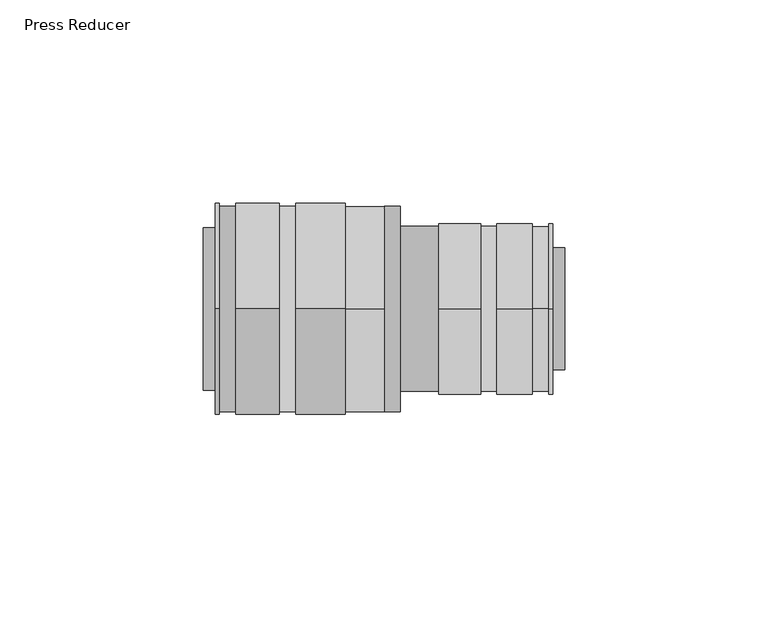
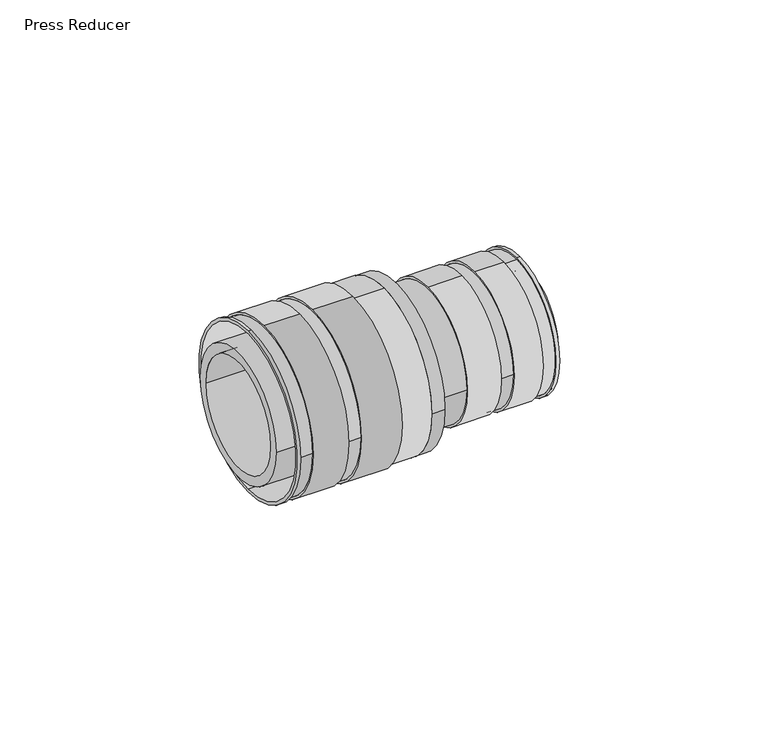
"""IFC4 building model written with IfcOpenShell, lengths in millimetres: pipe fitting geometry, Press Reducer : Superpipe Press Reducer."""

from ifc_helpers import new_model, si_unit, point, frame, frame_2d, origin, place, context, project, spatial, polyline, circle_curve, trimmed, segment, composite_curve, outline, extrude, source, transform, mapped, element, save
from ifc_brep_helpers import plane_surface, cylinder_surface, revolved_surface, advanced_brep


def press_reducer_344c6283(model_context):
    return source(origin(), model_context, "Body", "SolidModel", [
        advanced_brep(
        [(3.0, 0.0, -26.0), (3.0, 0.0, 26.0), (3.0, 0.0, -25.0), (3.0, 0.0, 25.0), (44.5, 0.0, -25.3), (44.5, 0.0, 25.3), (44.5, 0.0, -25.0), (44.5, 0.0, 25.0), (4.0, 0.0, -26.0), (4.0, -26.0, 0.0), (4.0, 0.0, 26.0), (35.0, 0.0, -26.0), (35.0, 0.0, 26.0), (22.75, 0.0, 26.0), (22.75, -26.0, 0.0), (22.75, 0.0, -26.0), (18.75, 0.0, -26.0), (18.75, -26.0, 0.0), (18.75, 0.0, 26.0), (8.0, 0.0, 26.0), (8.0, -26.0, 0.0), (8.0, 0.0, -26.0), (4.0, 26.0, 0.0), (22.75, 26.0, 0.0), (18.75, 26.0, 0.0), (8.0, 26.0, 0.0), (35.0, 0.0, -25.3), (35.0, 0.0, 25.3), (18.75, 25.3, 0.0), (18.75, -25.3, 0.0), (22.75, 25.3, 0.0), (22.75, -25.3, 0.0), (8.0, -25.3, 0.0), (8.0, 25.3, 0.0), (4.0, -25.3, 0.0), (4.0, 25.3, 0.0)],
        [
            (0, 1, circle_curve(frame((3.0, 0.0, 0.0), z_axis=(-1.0, 0.0, 0.0), x_axis=(0.0, 0.0, 1.0)), 26.0)),
            (1, 0, circle_curve(frame((3.0, 0.0, 0.0), z_axis=(-1.0, 0.0, 0.0), x_axis=(0.0, 0.0, 1.0)), 26.0)),
            (2, 3, circle_curve(frame((3.0, 0.0, 0.0), z_axis=(1.0, 0.0, 0.0), x_axis=(0.0, 0.0, 1.0)), 25.0)),
            (3, 2, circle_curve(frame((3.0, 0.0, 0.0), z_axis=(1.0, 0.0, 0.0), x_axis=(0.0, 0.0, 1.0)), 25.0)),
            (4, 5, circle_curve(frame((44.5, 0.0, 0.0), z_axis=(1.0, 0.0, 0.0), x_axis=(0.0, 0.0, 1.0)), 25.3)),
            (5, 4, circle_curve(frame((44.5, 0.0, 0.0), z_axis=(1.0, 0.0, 0.0), x_axis=(0.0, 0.0, 1.0)), 25.3)),
            (6, 7, circle_curve(frame((44.5, 0.0, 0.0), z_axis=(-1.0, 0.0, 0.0), x_axis=(0.0, 0.0, 1.0)), 25.0)),
            (7, 6, circle_curve(frame((44.5, 0.0, 0.0), z_axis=(-1.0, 0.0, 0.0), x_axis=(0.0, 0.0, 1.0)), 25.0)),
            (0, 8),
            (8, 9, circle_curve(frame((4.0, 0.0, 0.0), z_axis=(-1.0, 0.0, 0.0), x_axis=(0.0, 0.0, 1.0)), 26.0)),
            (9, 10, circle_curve(frame((4.0, 0.0, 0.0), z_axis=(-1.0, 0.0, 0.0), x_axis=(0.0, 0.0, 1.0)), 26.0)),
            (10, 1),
            (11, 12, circle_curve(frame((35.0, 0.0, 0.0), z_axis=(-1.0, 0.0, 0.0), x_axis=(0.0, 0.0, 1.0)), 26.0)),
            (12, 13),
            (13, 14, circle_curve(frame((22.75, 0.0, 0.0), z_axis=(1.0, 0.0, 0.0), x_axis=(0.0, 0.0, 1.0)), 26.0)),
            (14, 15, circle_curve(frame((22.75, 0.0, 0.0), z_axis=(1.0, 0.0, 0.0), x_axis=(0.0, 0.0, 1.0)), 26.0)),
            (15, 11),
            (16, 17, circle_curve(frame((18.75, 0.0, 0.0), z_axis=(-1.0, 0.0, 0.0), x_axis=(0.0, 0.0, 1.0)), 26.0)),
            (17, 18, circle_curve(frame((18.75, 0.0, 0.0), z_axis=(-1.0, 0.0, 0.0), x_axis=(0.0, 0.0, 1.0)), 26.0)),
            (18, 19),
            (19, 20, circle_curve(frame((8.0, 0.0, 0.0), z_axis=(1.0, 0.0, 0.0), x_axis=(0.0, 0.0, 1.0)), 26.0)),
            (20, 21, circle_curve(frame((8.0, 0.0, 0.0), z_axis=(1.0, 0.0, 0.0), x_axis=(0.0, 0.0, 1.0)), 26.0)),
            (21, 16),
            (10, 22, circle_curve(frame((4.0, 0.0, 0.0), z_axis=(-1.0, 0.0, 0.0), x_axis=(0.0, 0.0, 1.0)), 26.0)),
            (22, 8, circle_curve(frame((4.0, 0.0, 0.0), z_axis=(-1.0, 0.0, 0.0), x_axis=(0.0, 0.0, 1.0)), 26.0)),
            (12, 11, circle_curve(frame((35.0, 0.0, 0.0), z_axis=(-1.0, 0.0, 0.0), x_axis=(0.0, 0.0, 1.0)), 26.0)),
            (15, 23, circle_curve(frame((22.75, 0.0, 0.0), z_axis=(1.0, 0.0, 0.0), x_axis=(0.0, 0.0, 1.0)), 26.0)),
            (23, 13, circle_curve(frame((22.75, 0.0, 0.0), z_axis=(1.0, 0.0, 0.0), x_axis=(0.0, 0.0, 1.0)), 26.0)),
            (24, 16, circle_curve(frame((18.75, 0.0, 0.0), z_axis=(-1.0, 0.0, 0.0), x_axis=(0.0, 0.0, 1.0)), 26.0)),
            (21, 25, circle_curve(frame((8.0, 0.0, 0.0), z_axis=(1.0, 0.0, 0.0), x_axis=(0.0, 0.0, 1.0)), 26.0)),
            (25, 19, circle_curve(frame((8.0, 0.0, 0.0), z_axis=(1.0, 0.0, 0.0), x_axis=(0.0, 0.0, 1.0)), 26.0)),
            (18, 24, circle_curve(frame((18.75, 0.0, 0.0), z_axis=(-1.0, 0.0, 0.0), x_axis=(0.0, 0.0, 1.0)), 26.0)),
            (2, 6),
            (7, 3),
            (26, 27, circle_curve(frame((35.0, 0.0, 0.0), z_axis=(-1.0, 0.0, 0.0), x_axis=(0.0, 0.0, 1.0)), 25.3)),
            (27, 26, circle_curve(frame((35.0, 0.0, 0.0), z_axis=(-1.0, 0.0, 0.0), x_axis=(0.0, 0.0, 1.0)), 25.3)),
            (27, 5),
            (4, 26),
            (28, 29, circle_curve(frame((18.75, 0.0, 0.0), z_axis=(-1.0, 0.0, 0.0), x_axis=(0.0, -1.0, 0.0)), 25.3)),
            (29, 28, circle_curve(frame((18.75, 0.0, 0.0), z_axis=(-1.0, 0.0, 0.0), x_axis=(0.0, -1.0, 0.0)), 25.3)),
            (30, 31, circle_curve(frame((22.75, 0.0, 0.0), z_axis=(1.0, 0.0, 0.0), x_axis=(0.0, -1.0, 0.0)), 25.3)),
            (31, 30, circle_curve(frame((22.75, 0.0, 0.0), z_axis=(1.0, 0.0, 0.0), x_axis=(0.0, -1.0, 0.0)), 25.3)),
            (29, 31),
            (30, 28),
            (32, 33, circle_curve(frame((8.0, 0.0, 0.0), z_axis=(1.0, 0.0, 0.0), x_axis=(0.0, 1.0, 0.0)), 25.3)),
            (33, 32, circle_curve(frame((8.0, 0.0, 0.0), z_axis=(1.0, 0.0, 0.0), x_axis=(0.0, 1.0, 0.0)), 25.3)),
            (34, 35, circle_curve(frame((4.0, 0.0, 0.0), z_axis=(-1.0, 0.0, 0.0), x_axis=(0.0, 1.0, 0.0)), 25.3)),
            (35, 34, circle_curve(frame((4.0, 0.0, 0.0), z_axis=(-1.0, 0.0, 0.0), x_axis=(0.0, 1.0, 0.0)), 25.3)),
            (33, 35),
            (34, 32),
        ],
        [
            plane_surface(frame((3.0, 0.0, 26.0), z_axis=(-1.0, 0.0, 0.0), x_axis=(0.0, 1.0, 0.0))),
            plane_surface(frame((44.5, 0.0, 26.0), z_axis=(1.0, 0.0, 0.0), x_axis=(0.0, -1.0, 0.0))),
            cylinder_surface(frame((44.5, 0.0, 0.0), z_axis=(-1.0, 0.0, 0.0), x_axis=(0.0, 0.0, 1.0)), 26.0),
            revolved_surface(polyline([(44.5, 0.0, 25.0), (3.0, 0.0, 25.0)]), (44.5, 0.0, 0.0), (1.0, 0.0, 0.0)),
            plane_surface(frame((35.0, 0.0, 26.0), z_axis=(1.0, 0.0, 0.0), x_axis=(0.0, 1.0, 0.0))),
            cylinder_surface(frame((44.5, 0.0, 0.0), z_axis=(1.0, 0.0, 0.0), x_axis=(0.0, 0.0, 1.0)), 25.3),
            plane_surface(frame((18.75, -26.0, 0.0), z_axis=(1.0, 0.0, 0.0), x_axis=(0.0, 0.0, 1.0))),
            plane_surface(frame((22.75, -26.0, 0.0), z_axis=(-1.0, 0.0, 0.0), x_axis=(0.0, 0.0, -1.0))),
            cylinder_surface(frame((22.75, 0.0, 0.0), z_axis=(1.0, 0.0, 0.0), x_axis=(0.0, -1.0, 0.0)), 25.3),
            plane_surface(frame((8.0, 26.0, 0.0), z_axis=(-1.0, 0.0, 0.0), x_axis=(0.0, 0.0, 1.0))),
            plane_surface(frame((4.0, 26.0, 0.0), z_axis=(1.0, 0.0, 0.0), x_axis=(0.0, 0.0, -1.0))),
            cylinder_surface(frame((3.0, 0.0, 0.0), z_axis=(-1.0, 0.0, 0.0), x_axis=(0.0, 1.0, 0.0)), 25.3),
        ],
        [
            (0, [[1, 2], [3, 4]]),
            (1, [[5, 6], [7, 8]]),
            (2, [[-1, 9, 10, 11, 12]]),
            (2, [[13, 14, 15, 16, 17]]),
            (2, [[18, 19, 20, 21, 22, 23]]),
            (2, [[-2, -12, 24, 25, -9]]),
            (2, [[26, -17, 27, 28, -14]]),
            (2, [[29, -23, 30, 31, -20, 32]]),
            (3, [[-3, 33, -8, 34]]),
            (3, [[-4, -34, -7, -33]]),
            (4, [[-13, -26], [35, 36]]),
            (5, [[-36, 37, -5, 38]]),
            (5, [[-35, -38, -6, -37]]),
            (6, [[-18, -29, -32, -19], [39, 40]]),
            (7, [[-16, -15, -28, -27], [41, 42]]),
            (8, [[-40, 43, -41, 44]]),
            (8, [[-39, -44, -42, -43]]),
            (9, [[-22, -21, -31, -30], [45, 46]]),
            (10, [[-10, -25, -24, -11], [47, 48]]),
            (11, [[-46, 49, -47, 50]]),
            (11, [[-45, -50, -48, -49]]),
        ],
    ),
        advanced_brep(
        [(86.0, 0.0, -21.0), (86.0, 0.0, 21.0), (86.0, 0.0, -20.0), (86.0, 0.0, 20.0), (48.5, -20.3, 0.0), (48.5, 20.3, 0.0), (48.5, 0.0, -20.0), (48.5, 0.0, 20.0), (85.0, 0.0, -21.0), (85.0, 0.0, 21.0), (58.0, 0.0, -21.0), (58.0, 21.0, 0.0), (58.0, 0.0, 21.0), (68.25, 0.0, 21.0), (68.25, 21.0, 0.0), (68.25, 0.0, -21.0), (81.0, 0.0, 21.0), (81.0, 0.0, -21.0), (72.25, 0.0, -21.0), (72.25, 21.0, 0.0), (72.25, 0.0, 21.0), (58.0, -21.0, 0.0), (68.25, -21.0, 0.0), (72.25, -21.0, 0.0), (58.0, -20.3, 0.0), (58.0, 20.3, 0.0), (81.0, 0.0, 20.3), (81.0, 0.0, -20.3), (85.0, 0.0, 20.3), (85.0, 0.0, -20.3), (68.25, 20.3, 0.0), (68.25, -20.3, 0.0), (72.25, 20.3, 0.0), (72.25, -20.3, 0.0)],
        [
            (0, 1, circle_curve(frame((86.0, 0.0, 0.0), z_axis=(1.0, 0.0, 0.0), x_axis=(0.0, 0.0, 1.0)), 21.0)),
            (1, 0, circle_curve(frame((86.0, 0.0, 0.0), z_axis=(1.0, 0.0, 0.0), x_axis=(0.0, 0.0, 1.0)), 21.0)),
            (2, 3, circle_curve(frame((86.0, 0.0, 0.0), z_axis=(-1.0, 0.0, 0.0), x_axis=(0.0, 0.0, 1.0)), 20.0)),
            (3, 2, circle_curve(frame((86.0, 0.0, 0.0), z_axis=(-1.0, 0.0, 0.0), x_axis=(0.0, 0.0, 1.0)), 20.0)),
            (4, 5, circle_curve(frame((48.5, 0.0, 0.0), z_axis=(-1.0, 0.0, 0.0), x_axis=(0.0, 1.0, 0.0)), 20.3)),
            (5, 4, circle_curve(frame((48.5, 0.0, 0.0), z_axis=(-1.0, 0.0, 0.0), x_axis=(0.0, 1.0, 0.0)), 20.3)),
            (6, 7, circle_curve(frame((48.5, 0.0, 0.0), z_axis=(1.0, 0.0, 0.0), x_axis=(0.0, 0.0, 1.0)), 20.0)),
            (7, 6, circle_curve(frame((48.5, 0.0, 0.0), z_axis=(1.0, 0.0, 0.0), x_axis=(0.0, 0.0, 1.0)), 20.0)),
            (0, 8),
            (8, 9, circle_curve(frame((85.0, 0.0, 0.0), z_axis=(1.0, 0.0, 0.0), x_axis=(0.0, 0.0, 1.0)), 21.0)),
            (9, 1),
            (10, 11, circle_curve(frame((58.0, 0.0, 0.0), z_axis=(1.0, 0.0, 0.0), x_axis=(0.0, 0.0, 1.0)), 21.0)),
            (11, 12, circle_curve(frame((58.0, 0.0, 0.0), z_axis=(1.0, 0.0, 0.0), x_axis=(0.0, 0.0, 1.0)), 21.0)),
            (12, 13),
            (13, 14, circle_curve(frame((68.25, 0.0, 0.0), z_axis=(-1.0, 0.0, 0.0), x_axis=(0.0, 0.0, 1.0)), 21.0)),
            (14, 15, circle_curve(frame((68.25, 0.0, 0.0), z_axis=(-1.0, 0.0, 0.0), x_axis=(0.0, 0.0, 1.0)), 21.0)),
            (15, 10),
            (16, 17, circle_curve(frame((81.0, 0.0, 0.0), z_axis=(-1.0, 0.0, 0.0), x_axis=(0.0, 0.0, 1.0)), 21.0)),
            (17, 18),
            (18, 19, circle_curve(frame((72.25, 0.0, 0.0), z_axis=(1.0, 0.0, 0.0), x_axis=(0.0, 0.0, 1.0)), 21.0)),
            (19, 20, circle_curve(frame((72.25, 0.0, 0.0), z_axis=(1.0, 0.0, 0.0), x_axis=(0.0, 0.0, 1.0)), 21.0)),
            (20, 16),
            (9, 8, circle_curve(frame((85.0, 0.0, 0.0), z_axis=(1.0, 0.0, 0.0), x_axis=(0.0, 0.0, 1.0)), 21.0)),
            (21, 10, circle_curve(frame((58.0, 0.0, 0.0), z_axis=(1.0, 0.0, 0.0), x_axis=(0.0, 0.0, 1.0)), 21.0)),
            (15, 22, circle_curve(frame((68.25, 0.0, 0.0), z_axis=(-1.0, 0.0, 0.0), x_axis=(0.0, 0.0, 1.0)), 21.0)),
            (22, 13, circle_curve(frame((68.25, 0.0, 0.0), z_axis=(-1.0, 0.0, 0.0), x_axis=(0.0, 0.0, 1.0)), 21.0)),
            (12, 21, circle_curve(frame((58.0, 0.0, 0.0), z_axis=(1.0, 0.0, 0.0), x_axis=(0.0, 0.0, 1.0)), 21.0)),
            (17, 16, circle_curve(frame((81.0, 0.0, 0.0), z_axis=(-1.0, 0.0, 0.0), x_axis=(0.0, 0.0, 1.0)), 21.0)),
            (20, 23, circle_curve(frame((72.25, 0.0, 0.0), z_axis=(1.0, 0.0, 0.0), x_axis=(0.0, 0.0, 1.0)), 21.0)),
            (23, 18, circle_curve(frame((72.25, 0.0, 0.0), z_axis=(1.0, 0.0, 0.0), x_axis=(0.0, 0.0, 1.0)), 21.0)),
            (2, 6),
            (7, 3),
            (24, 25, circle_curve(frame((58.0, 0.0, 0.0), z_axis=(1.0, 0.0, 0.0), x_axis=(0.0, 1.0, 0.0)), 20.3)),
            (25, 24, circle_curve(frame((58.0, 0.0, 0.0), z_axis=(1.0, 0.0, 0.0), x_axis=(0.0, 1.0, 0.0)), 20.3)),
            (25, 5),
            (4, 24),
            (26, 27, circle_curve(frame((81.0, 0.0, 0.0), z_axis=(-1.0, 0.0, 0.0), x_axis=(0.0, 0.0, -1.0)), 20.3)),
            (27, 26, circle_curve(frame((81.0, 0.0, 0.0), z_axis=(-1.0, 0.0, 0.0), x_axis=(0.0, 0.0, -1.0)), 20.3)),
            (28, 29, circle_curve(frame((85.0, 0.0, 0.0), z_axis=(1.0, 0.0, 0.0), x_axis=(0.0, 0.0, -1.0)), 20.3)),
            (29, 28, circle_curve(frame((85.0, 0.0, 0.0), z_axis=(1.0, 0.0, 0.0), x_axis=(0.0, 0.0, -1.0)), 20.3)),
            (27, 29),
            (28, 26),
            (30, 31, circle_curve(frame((68.25, 0.0, 0.0), z_axis=(-1.0, 0.0, 0.0), x_axis=(0.0, -1.0, 0.0)), 20.3)),
            (31, 30, circle_curve(frame((68.25, 0.0, 0.0), z_axis=(-1.0, 0.0, 0.0), x_axis=(0.0, -1.0, 0.0)), 20.3)),
            (32, 33, circle_curve(frame((72.25, 0.0, 0.0), z_axis=(1.0, 0.0, 0.0), x_axis=(0.0, -1.0, 0.0)), 20.3)),
            (33, 32, circle_curve(frame((72.25, 0.0, 0.0), z_axis=(1.0, 0.0, 0.0), x_axis=(0.0, -1.0, 0.0)), 20.3)),
            (31, 33),
            (32, 30),
        ],
        [
            plane_surface(frame((86.0, 0.0, 21.0), z_axis=(1.0, 0.0, 0.0), x_axis=(0.0, -1.0, 0.0))),
            plane_surface(frame((48.5, 0.0, 21.0), z_axis=(-1.0, 0.0, 0.0), x_axis=(0.0, 1.0, 0.0))),
            cylinder_surface(frame((48.5, 0.0, 0.0), z_axis=(1.0, 0.0, 0.0), x_axis=(0.0, 0.0, 1.0)), 21.0),
            revolved_surface(polyline([(48.5, 0.0, 20.0), (86.0, 0.0, 20.0)]), (48.5, 0.0, 0.0), (-1.0, 0.0, 0.0)),
            plane_surface(frame((58.0, 21.0, 0.0), z_axis=(-1.0, 0.0, 0.0), x_axis=(0.0, 0.0, 1.0))),
            cylinder_surface(frame((48.5, 0.0, 0.0), z_axis=(-1.0, 0.0, 0.0), x_axis=(0.0, 1.0, 0.0)), 20.3),
            plane_surface(frame((81.0, 0.0, -21.0), z_axis=(1.0, 0.0, 0.0), x_axis=(0.0, -1.0, 0.0))),
            plane_surface(frame((85.0, 0.0, -21.0), z_axis=(-1.0, 0.0, 0.0), x_axis=(0.0, 1.0, 0.0))),
            cylinder_surface(frame((86.0, 0.0, 0.0), z_axis=(1.0, 0.0, 0.0), x_axis=(0.0, 0.0, -1.0)), 20.3),
            plane_surface(frame((68.25, -21.0, 0.0), z_axis=(1.0, 0.0, 0.0), x_axis=(0.0, 0.0, 1.0))),
            plane_surface(frame((72.25, -21.0, 0.0), z_axis=(-1.0, 0.0, 0.0), x_axis=(0.0, 0.0, -1.0))),
            cylinder_surface(frame((68.25, 0.0, 0.0), z_axis=(1.0, 0.0, 0.0), x_axis=(0.0, -1.0, 0.0)), 20.3),
        ],
        [
            (0, [[1, 2], [3, 4]]),
            (1, [[5, 6], [7, 8]]),
            (2, [[-1, 9, 10, 11]]),
            (2, [[12, 13, 14, 15, 16, 17]]),
            (2, [[18, 19, 20, 21, 22]]),
            (2, [[-2, -11, 23, -9]]),
            (2, [[24, -17, 25, 26, -14, 27]]),
            (2, [[28, -22, 29, 30, -19]]),
            (3, [[-3, 31, -8, 32]]),
            (3, [[-4, -32, -7, -31]]),
            (4, [[-12, -24, -27, -13], [33, 34]]),
            (5, [[-34, 35, -5, 36]]),
            (5, [[-33, -36, -6, -35]]),
            (6, [[-18, -28], [37, 38]]),
            (7, [[-10, -23], [39, 40]]),
            (8, [[-38, 41, -39, 42]]),
            (8, [[-37, -42, -40, -41]]),
            (9, [[-16, -15, -26, -25], [43, 44]]),
            (10, [[-20, -30, -29, -21], [45, 46]]),
            (11, [[-44, 47, -45, 48]]),
            (11, [[-43, -48, -46, -47]]),
        ],
    ),
        extrude(outline(composite_curve([segment(trimmed(circle_curve(frame_2d((-0.000673, 0.0)), 15.0), [point((-15.000673, 0.0))], [point((14.999327, 0.0))], False, "CARTESIAN"), True, "CONTINUOUS"), segment(trimmed(circle_curve(frame_2d((-0.000673, 0.0)), 15.0), [point((14.999327, 0.0))], [point((-15.000673, 0.0))], False, "CARTESIAN"), True, "CONTINUOUS")], self_intersect=False), holes=[composite_curve([segment(trimmed(circle_curve(frame_2d((-0.000673, 0.0)), 13.0), [point((12.999327, 0.0))], [point((-13.000673, 0.0))], True, "CARTESIAN"), True, "CONTINUOUS"), segment(trimmed(circle_curve(frame_2d((-0.000673, 0.0)), 13.0), [point((-13.000673, 0.0))], [point((12.999327, 0.0))], True, "CARTESIAN"), True, "CONTINUOUS")], self_intersect=False)]), frame((48.5, 0.0, 0.0), z_axis=(1.0, 0.0, 0.0), x_axis=(0.0, 1.0, 0.0)), (0.0, 0.0, 1.0), 40.5),
        extrude(outline(composite_curve([segment(trimmed(circle_curve(frame_2d((-0.000673, 0.0)), 25.3), [point((-25.300673, 0.0))], [point((25.299327, 0.0))], False, "CARTESIAN"), True, "CONTINUOUS"), segment(trimmed(circle_curve(frame_2d((-0.000673, 0.0)), 25.3), [point((25.299327, 0.0))], [point((-25.300673, 0.0))], False, "CARTESIAN"), True, "CONTINUOUS")], self_intersect=False), holes=[composite_curve([segment(trimmed(circle_curve(frame_2d((-0.000673, 0.0)), 13.0), [point((12.999327, 0.0))], [point((-13.000673, 0.0))], True, "CARTESIAN"), True, "CONTINUOUS"), segment(trimmed(circle_curve(frame_2d((-0.000673, 0.0)), 13.0), [point((-13.000673, 0.0))], [point((12.999327, 0.0))], True, "CARTESIAN"), True, "CONTINUOUS")], self_intersect=False)]), frame((44.5, 0.0, 0.0), z_axis=(1.0, 0.0, 0.0), x_axis=(0.0, 1.0, 0.0)), (0.0, 0.0, 1.0), 4.0),
        extrude(outline(composite_curve([segment(trimmed(circle_curve(frame_2d((-0.000673, 0.0)), 20.0), [point((-20.000673, 0.0))], [point((19.999327, 0.0))], False, "CARTESIAN"), True, "CONTINUOUS"), segment(trimmed(circle_curve(frame_2d((-0.000673, 0.0)), 20.0), [point((19.999327, 0.0))], [point((-20.000673, 0.0))], False, "CARTESIAN"), True, "CONTINUOUS")], self_intersect=False), holes=[composite_curve([segment(trimmed(circle_curve(frame_2d((-0.000673, 0.0)), 17.0), [point((16.999327, 0.0))], [point((-17.000673, 0.0))], True, "CARTESIAN"), True, "CONTINUOUS"), segment(trimmed(circle_curve(frame_2d((-0.000673, 0.0)), 17.0), [point((-17.000673, 0.0))], [point((16.999327, 0.0))], True, "CARTESIAN"), True, "CONTINUOUS")], self_intersect=False)]), frame((0.0, 0.0, 0.0), z_axis=(1.0, 0.0, 0.0), x_axis=(0.0, 1.0, 0.0)), (0.0, 0.0, 1.0), 44.5),
    ])


if __name__ == "__main__":
    model = new_model("IFC4")
    model_context = context("Model", 3, world=origin())
    ifc_project = project(units=[si_unit("LENGTHUNIT", "METRE", prefix="MILLI")], contexts=[model_context])
    site = spatial("IfcSite", under=ifc_project)
    building = spatial("IfcBuilding", under=site)
    placement = place(None, origin())
    press_reducer_shape = press_reducer_344c6283(model_context)
    element("IfcPipeFitting", 1, ObjectType="Press Reducer : Superpipe Press Reducer", at=placement, inside=building, context=model_context, shape_type="MappedRepresentation", body=[
        mapped(press_reducer_shape, transform((0.0, 0.0, 0.0), x_axis=(1.0, 0.0, 0.0), y_axis=(0.0, 1.0, 0.0), z_axis=(0.0, 0.0, 1.0))),
    ])
    save(model, "model.ifc")
